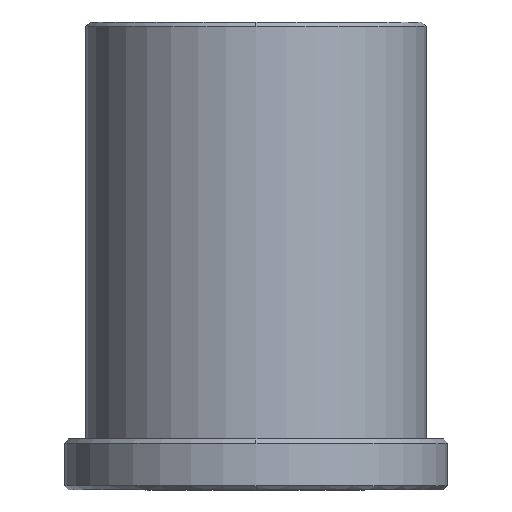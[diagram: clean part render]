
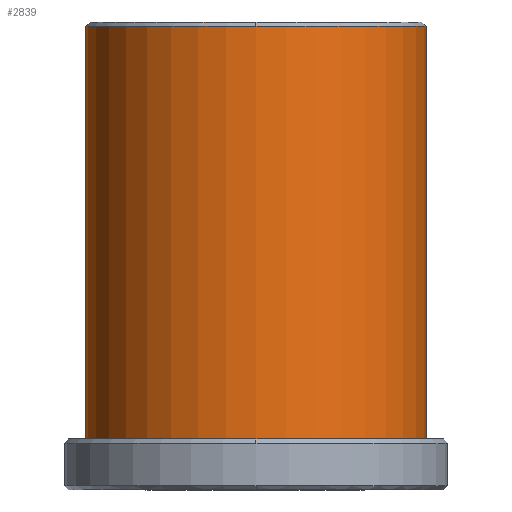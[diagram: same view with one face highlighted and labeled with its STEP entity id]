
A CAD part, front view. The second image highlights one B-rep face of the part: STEP entity #2839.
In plain terms, the highlighted cylindrical face has radius 20 mm (diameter 40 mm), a partial arc.
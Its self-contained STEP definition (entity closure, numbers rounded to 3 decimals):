
#2638=CARTESIAN_POINT('Vertex',(20.,0.,54.5)) ;
#2662=CARTESIAN_POINT('Vertex',(-20.,0.,54.5)) ;
#2686=CARTESIAN_POINT('Vertex',(0.,-20.,54.5)) ;
#2689=CARTESIAN_POINT('Axis2P3D Location',(0.,0.,54.5)) ;
#2706=CARTESIAN_POINT('Axis2P3D Location',(0.,0.,54.5)) ;
#2795=CARTESIAN_POINT('Line Origine',(20.,0.,-2.75)) ;
#2799=CARTESIAN_POINT('Vertex',(20.,0.,6.)) ;
#2806=CARTESIAN_POINT('Vertex',(-20.,0.,6.)) ;
#2809=CARTESIAN_POINT('Line Origine',(-20.,0.,-2.75)) ;
#2822=CARTESIAN_POINT('Axis2P3D Location',(0.,0.,-2.75)) ;
#2827=CARTESIAN_POINT('Axis2P3D Location',(0.,0.,6.)) ;
#2690=DIRECTION('Axis2P3D Direction',(0.,0.,-1.)) ;
#2707=DIRECTION('Axis2P3D Direction',(0.,0.,-1.)) ;
#2796=DIRECTION('Vector Direction',(0.,0.,1.)) ;
#2810=DIRECTION('Vector Direction',(0.,0.,1.)) ;
#2823=DIRECTION('Axis2P3D Direction',(0.,0.,1.)) ;
#2824=DIRECTION('Axis2P3D XDirection',(-1.,0.,0.)) ;
#2828=DIRECTION('Axis2P3D Direction',(0.,0.,1.)) ;
#2691=AXIS2_PLACEMENT_3D('Circle Axis2P3D',#2689,#2690,$) ;
#2708=AXIS2_PLACEMENT_3D('Circle Axis2P3D',#2706,#2707,$) ;
#2825=AXIS2_PLACEMENT_3D('Cylinder Axis2P3D',#2822,#2823,#2824) ;
#2829=AXIS2_PLACEMENT_3D('Circle Axis2P3D',#2827,#2828,$) ;
#2833=ORIENTED_EDGE('',*,*,#2813,.T.) ;
#2834=ORIENTED_EDGE('',*,*,#2831,.F.) ;
#2835=ORIENTED_EDGE('',*,*,#2801,.F.) ;
#2836=ORIENTED_EDGE('',*,*,#2710,.T.) ;
#2837=ORIENTED_EDGE('',*,*,#2693,.T.) ;
#2797=VECTOR('Line Direction',#2796,1.) ;
#2811=VECTOR('Line Direction',#2810,1.) ;
#2839=ADVANCED_FACE('MANIFOLD_SOLID_BREP #2276',(#2838),#2826,.T.) ;
#2692=CIRCLE('generated circle',#2691,20.) ;
#2709=CIRCLE('generated circle',#2708,20.) ;
#2830=CIRCLE('generated circle',#2829,20.) ;
#2826=CYLINDRICAL_SURFACE('generated cylinder',#2825,20.) ;
#2693=EDGE_CURVE('',#2687,#2663,#2692,.T.) ;
#2710=EDGE_CURVE('',#2639,#2687,#2709,.T.) ;
#2801=EDGE_CURVE('',#2639,#2800,#2798,.F.) ;
#2813=EDGE_CURVE('',#2663,#2807,#2812,.F.) ;
#2831=EDGE_CURVE('',#2800,#2807,#2830,.F.) ;
#2832=EDGE_LOOP('',(#2833,#2834,#2835,#2836,#2837)) ;
#2838=FACE_OUTER_BOUND('',#2832,.T.) ;
#2798=LINE('Line',#2795,#2797) ;
#2812=LINE('Line',#2809,#2811) ;
#2639=VERTEX_POINT('',#2638) ;
#2663=VERTEX_POINT('',#2662) ;
#2687=VERTEX_POINT('',#2686) ;
#2800=VERTEX_POINT('',#2799) ;
#2807=VERTEX_POINT('',#2806) ;
